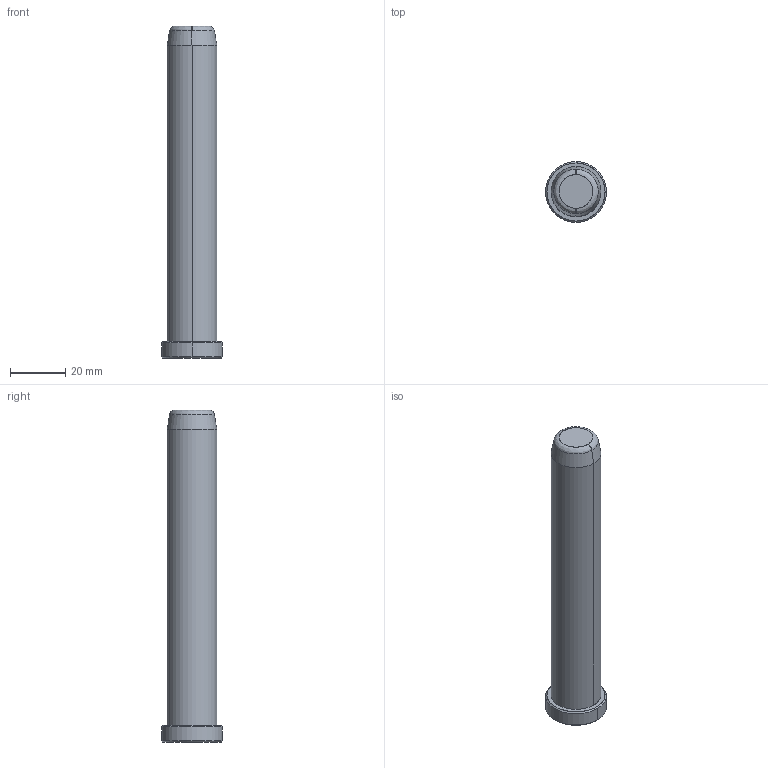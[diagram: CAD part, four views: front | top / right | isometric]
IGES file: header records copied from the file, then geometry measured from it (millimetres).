
Start section: START RECORD GO HERE.
Global section: file name: B81818120.igs; native system: DASSAULT SYSTEMES CATIA V5 R20 - www.3ds.com; preprocessor: CATIA Version 5 Release 20 ; author: Utente; organization: NB04-ASUS; date: 20200419.172331; units: millimetre
Bounding box: 22 x 22 x 120 mm (x, y, z)
Surface area: 7465 mm2 (no closed solid volume)
Topology: 0 solids, 0 shells, 17 faces, 68 edges, 68 vertices
Faces by surface type: revolution 14, plane 3
